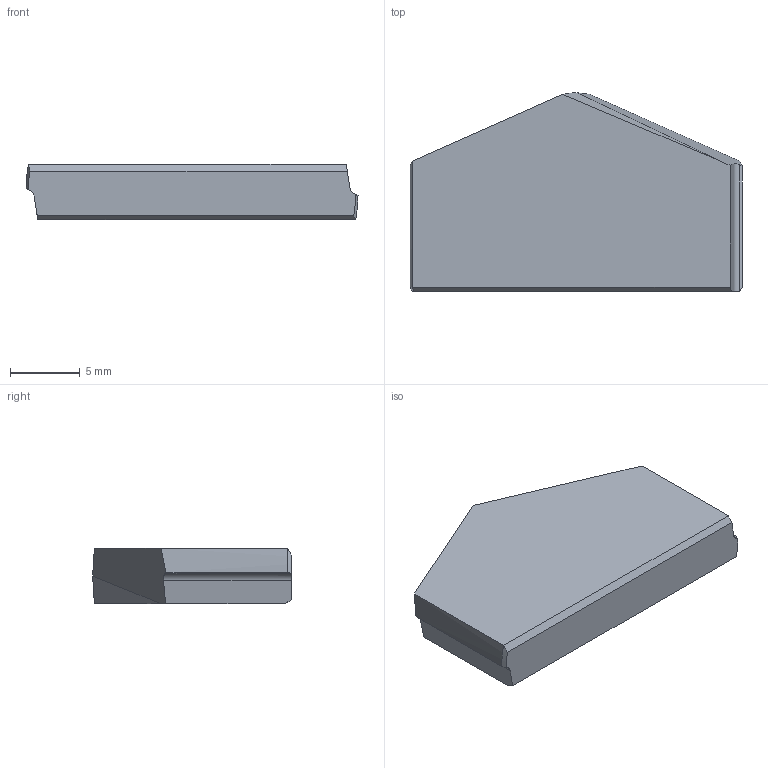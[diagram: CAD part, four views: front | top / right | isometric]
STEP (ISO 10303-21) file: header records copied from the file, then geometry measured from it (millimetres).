
FILE_DESCRIPTION (( 'STEP AP214' ), '1' );
FILE_NAME ('15-16.STEP', '2022-06-24T05:46:09', ( '' ), ( '' ), 'SwSTEP 2.0', 'SolidWorks 2018', '' );
FILE_SCHEMA (( 'AUTOMOTIVE_DESIGN' ));
Length unit declared in the file: millimetre
Products named in the file (1): 15-16
Bounding box: 23.8 x 14.25 x 4 mm (x, y, z)
Volume: 1071.6 mm3; surface area: 794.1 mm2
Topology: 1 solids, 1 shells, 19 faces, 50 edges, 33 vertices
Faces by surface type: plane 13, cylinder 4, cone 2
Entity records: 620 total; most frequent: CARTESIAN_POINT 133, ORIENTED_EDGE 100, DIRECTION 86, EDGE_CURVE 50, VECTOR 34, LINE 34, VERTEX_POINT 33, AXIS2_PLACEMENT_3D 26
